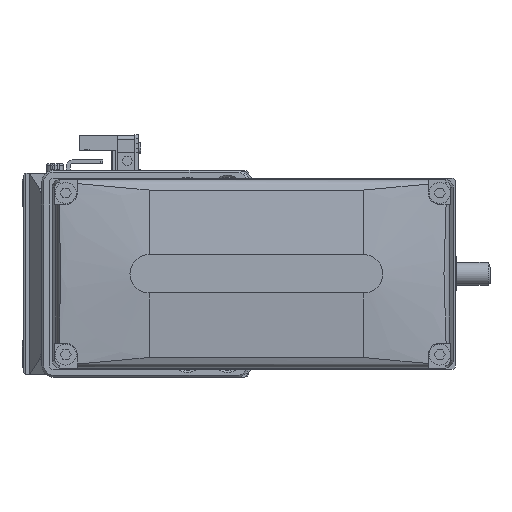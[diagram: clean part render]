
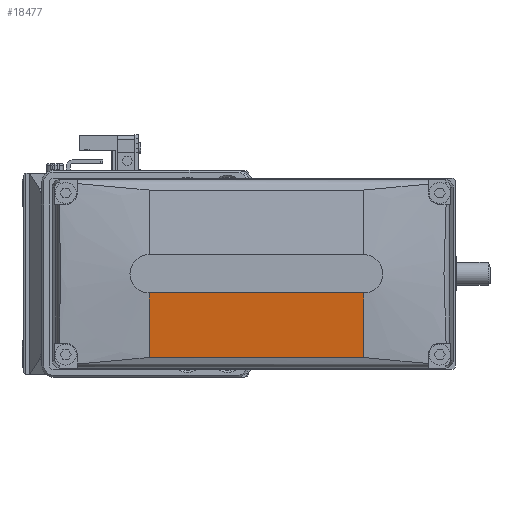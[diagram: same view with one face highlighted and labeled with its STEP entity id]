
A CAD part, left-side view. The second image highlights one B-rep face of the part: STEP entity #18477.
In plain terms, the highlighted planar face has unit normal (-0.996, 0, -0.087).
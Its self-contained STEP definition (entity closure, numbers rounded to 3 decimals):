
#290 = ORIENTED_EDGE ( 'NONE', *, *, #22958, .F. ) ;
#879 = DIRECTION ( 'NONE',  ( 0.087, 0., -0.996 ) ) ;
#994 = VERTEX_POINT ( 'NONE', #2032 ) ;
#1174 = CARTESIAN_POINT ( 'NONE',  ( 43606.406, -28., -499000. ) ) ;
#1175 = LINE ( 'NONE', #2791, #2153 ) ;
#2032 = CARTESIAN_POINT ( 'NONE',  ( -50., 28., -5. ) ) ;
#2153 = VECTOR ( 'NONE', #23690, 1000. ) ;
#2791 = CARTESIAN_POINT ( 'NONE',  ( 43606.406, 28., -499000. ) ) ;
#3512 = DIRECTION ( 'NONE',  ( -0.087, 0., 0.996 ) ) ;
#4724 = DIRECTION ( 'NONE',  ( 0., 1., 0. ) ) ;
#5044 = CARTESIAN_POINT ( 'NONE',  ( -48.525, -28., -21.861 ) ) ;
#6624 = VECTOR ( 'NONE', #879, 1000. ) ;
#10426 = ORIENTED_EDGE ( 'NONE', *, *, #31625, .T. ) ;
#12512 = VERTEX_POINT ( 'NONE', #37546 ) ;
#12742 = VECTOR ( 'NONE', #4724, 1000. ) ;
#13669 = CARTESIAN_POINT ( 'NONE',  ( -48.525, 128., -21.861 ) ) ;
#14144 = ORIENTED_EDGE ( 'NONE', *, *, #38207, .F. ) ;
#14249 = VECTOR ( 'NONE', #34510, 1000. ) ;
#15619 = CARTESIAN_POINT ( 'NONE',  ( -48.525, 28., -21.861 ) ) ;
#18313 = LINE ( 'NONE', #37468, #12742 ) ;
#18477 = ADVANCED_FACE ( 'NONE', ( #28426 ), #21386, .T. ) ;
#18987 = AXIS2_PLACEMENT_3D ( 'NONE', #30656, #21782, #3512 ) ;
#19140 = VERTEX_POINT ( 'NONE', #15619 ) ;
#21386 = PLANE ( 'NONE',  #18987 ) ;
#21782 = DIRECTION ( 'NONE',  ( -0.996, 0., -0.087 ) ) ;
#22958 = EDGE_CURVE ( 'NONE', #23542, #19140, #33823, .T. ) ;
#23542 = VERTEX_POINT ( 'NONE', #5044 ) ;
#23690 = DIRECTION ( 'NONE',  ( -0.087, 0., 0.996 ) ) ;
#23893 = LINE ( 'NONE', #1174, #6624 ) ;
#24460 = ORIENTED_EDGE ( 'NONE', *, *, #24698, .F. ) ;
#24698 = EDGE_CURVE ( 'NONE', #12512, #23542, #23893, .T. ) ;
#28426 = FACE_OUTER_BOUND ( 'NONE', #30496, .T. ) ;
#30496 = EDGE_LOOP ( 'NONE', ( #14144, #290, #24460, #10426 ) ) ;
#30656 = CARTESIAN_POINT ( 'NONE',  ( -50., 128., -5. ) ) ;
#31625 = EDGE_CURVE ( 'NONE', #12512, #994, #18313, .T. ) ;
#33823 = LINE ( 'NONE', #13669, #14249 ) ;
#34510 = DIRECTION ( 'NONE',  ( 0., 1., 0. ) ) ;
#37468 = CARTESIAN_POINT ( 'NONE',  ( -50., 128., -5. ) ) ;
#37546 = CARTESIAN_POINT ( 'NONE',  ( -50., -28., -5. ) ) ;
#38207 = EDGE_CURVE ( 'NONE', #19140, #994, #1175, .T. ) ;
